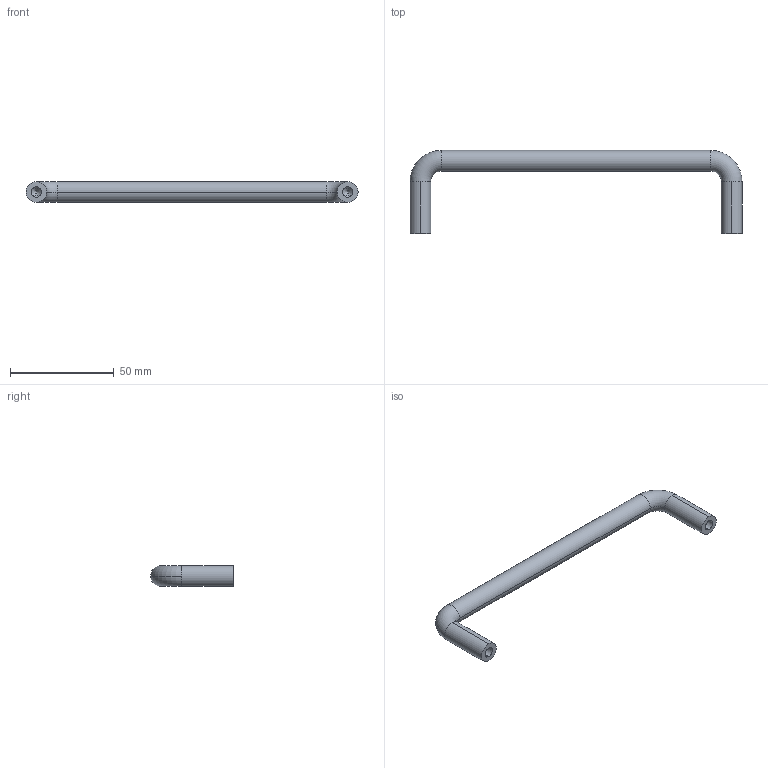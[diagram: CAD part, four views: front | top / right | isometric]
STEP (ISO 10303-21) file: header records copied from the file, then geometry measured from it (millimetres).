
FILE_DESCRIPTION (( 'STEP AP203' ), '1' );
FILE_NAME ('SK4-012-150.STEP', '2018-11-02T04:02:42', ( 'admin' ), ( 'Microsoft' ), 'SwSTEP 2.0', 'SolidWorks 2015', '' );
FILE_SCHEMA (( 'CONFIG_CONTROL_DESIGN' ));
Length unit declared in the file: millimetre
Products named in the file (1): SK4-012-150
Bounding box: 160 x 40 x 10 mm (x, y, z)
Volume: 15904.3 mm3; surface area: 7349.2 mm2
Topology: 1 solids, 1 shells, 20 faces, 46 edges, 26 vertices
Faces by surface type: cylinder 10, torus 4, cone 4, plane 2
Entity records: 623 total; most frequent: DIRECTION 112, CARTESIAN_POINT 89, ORIENTED_EDGE 84, AXIS2_PLACEMENT_3D 49, EDGE_CURVE 42, CIRCLE 28, VERTEX_POINT 26, EDGE_LOOP 22
